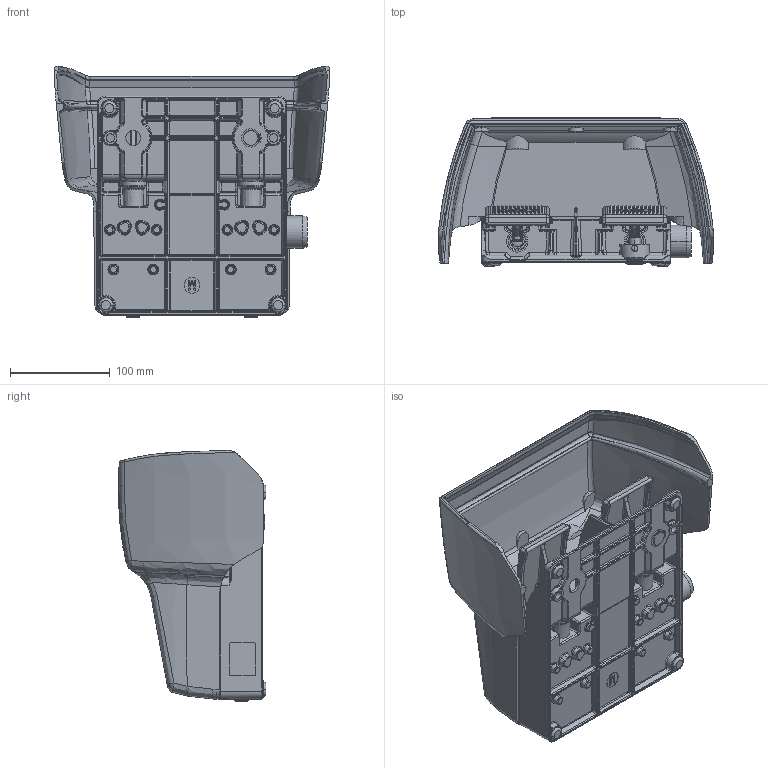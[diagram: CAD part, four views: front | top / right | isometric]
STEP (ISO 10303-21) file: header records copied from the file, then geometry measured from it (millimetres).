
FILE_DESCRIPTION((''),'2;1');
FILE_NAME('6162000627','2025-07-11T07:09:29',('markus.finger'),(''),'CREO PARAMETRIC BY PTC INC, 2022124','CREO PARAMETRIC BY PTC INC, 2022124','');
FILE_SCHEMA(('AUTOMOTIVE_DESIGN { 1 0 10303 214 1 1 1 1 }'));
Products named in the file (1): 6162000627
Bounding box: 277.04 x 148.5 x 252.43 mm (x, y, z)
Volume: 2718491.1 mm3; surface area: 388454.9 mm2
Topology: 6 solids, 6 shells, 4219 faces, 9628 edges, 5836 vertices
Faces by surface type: plane 2051, cylinder 971, bspline 660, torus 267, cone 154, sphere 106, extrusion 10
Entity records: 232881 total; most frequent: CARTESIAN_POINT 83293, ORIENTED_EDGE 19200, DIRECTION 17064, PRESENTATION_STYLE_ASSIGNMENT 13839, STYLED_ITEM 9620, CURVE_STYLE 9614, EDGE_CURVE 9600, AXIS2_PLACEMENT_3D 5971
